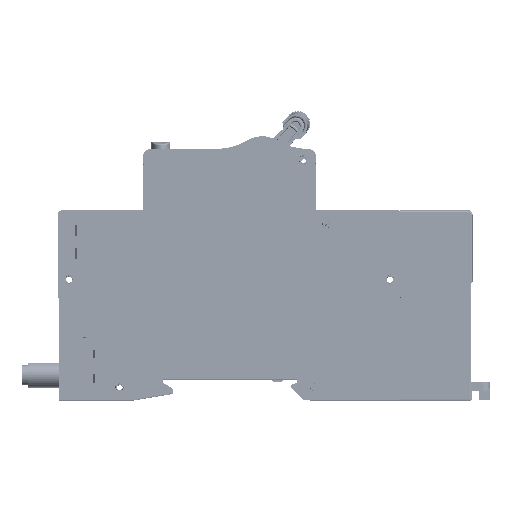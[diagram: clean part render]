
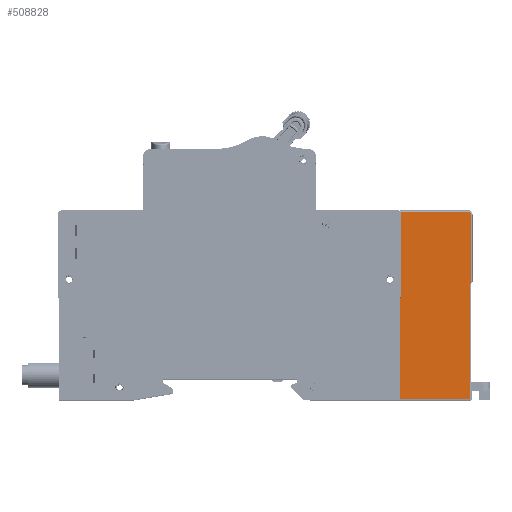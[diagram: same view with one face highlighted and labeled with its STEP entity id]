
A CAD part, top view. The second image highlights one B-rep face of the part: STEP entity #508828.
In plain terms, the highlighted planar face has unit normal (0, 0, 1).
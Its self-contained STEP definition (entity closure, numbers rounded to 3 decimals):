
#1317 = AXIS2_PLACEMENT_3D ( 'NONE', #620184, #546861, #752380 ) ;
#4178 = CARTESIAN_POINT ( 'NONE',  ( 40.462, 7.587, 124.564 ) ) ;
#37185 = LINE ( 'NONE', #771597, #604093 ) ;
#49898 = DIRECTION ( 'NONE',  ( 0., 0., 1. ) ) ;
#51665 = VERTEX_POINT ( 'NONE', #101954 ) ;
#64713 = EDGE_LOOP ( 'NONE', ( #756980, #188811, #461201, #371008, #613943, #569869, #500556, #547587, #799919, #789967, #152471 ) ) ;
#75315 = VECTOR ( 'NONE', #437654, 1000. ) ;
#91107 = DIRECTION ( 'NONE',  ( 0., -1., 0. ) ) ;
#101954 = CARTESIAN_POINT ( 'NONE',  ( 40.205, 8.237, 124.564 ) ) ;
#106493 = AXIS2_PLACEMENT_3D ( 'NONE', #156075, #625683, #628583 ) ;
#108448 = CARTESIAN_POINT ( 'NONE',  ( 58.262, -40.763, 124.564 ) ) ;
#118307 = CIRCLE ( 'NONE', #398632, 0.7 ) ;
#120967 = VERTEX_POINT ( 'NONE', #679376 ) ;
#139842 = EDGE_CURVE ( 'NONE', #479136, #463063, #219833, .T. ) ;
#152471 = ORIENTED_EDGE ( 'NONE', *, *, #728249, .T. ) ;
#156075 = CARTESIAN_POINT ( 'NONE',  ( 39.512, 7.587, 124.564 ) ) ;
#163344 = EDGE_CURVE ( 'NONE', #628316, #194418, #37185, .T. ) ;
#182118 = CARTESIAN_POINT ( 'NONE',  ( 57.962, 7.537, 124.564 ) ) ;
#188811 = ORIENTED_EDGE ( 'NONE', *, *, #706231, .T. ) ;
#194418 = VERTEX_POINT ( 'NONE', #740796 ) ;
#204630 = EDGE_CURVE ( 'NONE', #843463, #120967, #319469, .T. ) ;
#219833 = LINE ( 'NONE', #605093, #588006 ) ;
#229532 = CARTESIAN_POINT ( 'NONE',  ( 58.262, -40.463, 124.564 ) ) ;
#233977 = CARTESIAN_POINT ( 'NONE',  ( 58.662, -10.163, 124.564 ) ) ;
#255140 = DIRECTION ( 'NONE',  ( -0.708, -0.706, 0. ) ) ;
#267931 = CARTESIAN_POINT ( 'NONE',  ( 58.962, 8.237, 124.564 ) ) ;
#305056 = DIRECTION ( 'NONE',  ( 0., 1., 0. ) ) ;
#306005 = FACE_OUTER_BOUND ( 'NONE', #64713, .T. ) ;
#316229 = CARTESIAN_POINT ( 'NONE',  ( 58.662, 7.537, 124.564 ) ) ;
#319469 = LINE ( 'NONE', #493028, #413600 ) ;
#322869 = EDGE_CURVE ( 'NONE', #571688, #51665, #527105, .T. ) ;
#331443 = CARTESIAN_POINT ( 'NONE',  ( 40.462, -13.741, 124.564 ) ) ;
#332248 = DIRECTION ( 'NONE',  ( 0., 1., 0. ) ) ;
#337361 = LINE ( 'NONE', #772512, #75315 ) ;
#371008 = ORIENTED_EDGE ( 'NONE', *, *, #649073, .T. ) ;
#374954 = VECTOR ( 'NONE', #255140, 1000. ) ;
#379451 = VERTEX_POINT ( 'NONE', #869956 ) ;
#398632 = AXIS2_PLACEMENT_3D ( 'NONE', #182118, #49898, #645967 ) ;
#413600 = VECTOR ( 'NONE', #91107, 1000. ) ;
#417787 = LINE ( 'NONE', #108448, #554248 ) ;
#437654 = DIRECTION ( 'NONE',  ( 0., -1., 0. ) ) ;
#450482 = CARTESIAN_POINT ( 'NONE',  ( 58.962, -40.463, 124.564 ) ) ;
#452527 = LINE ( 'NONE', #450482, #756808 ) ;
#461201 = ORIENTED_EDGE ( 'NONE', *, *, #163344, .F. ) ;
#463063 = VERTEX_POINT ( 'NONE', #728423 ) ;
#479136 = VERTEX_POINT ( 'NONE', #229532 ) ;
#493028 = CARTESIAN_POINT ( 'NONE',  ( 40.112, -14.09, 124.564 ) ) ;
#500556 = ORIENTED_EDGE ( 'NONE', *, *, #322869, .F. ) ;
#508828 = ADVANCED_FACE ( 'NONE', ( #306005 ), #681958, .F. ) ;
#527105 = CIRCLE ( 'NONE', #106493, 0.95 ) ;
#530944 = VECTOR ( 'NONE', #737727, 1000. ) ;
#545367 = DIRECTION ( 'NONE',  ( -0.708, -0.706, 0. ) ) ;
#546861 = DIRECTION ( 'NONE',  ( 0., 0., -1. ) ) ;
#547587 = ORIENTED_EDGE ( 'NONE', *, *, #842308, .T. ) ;
#554248 = VECTOR ( 'NONE', #305056, 1000. ) ;
#557099 = LINE ( 'NONE', #316229, #703876 ) ;
#559179 = CARTESIAN_POINT ( 'NONE',  ( 58.662, 7.537, 124.564 ) ) ;
#569869 = ORIENTED_EDGE ( 'NONE', *, *, #754559, .T. ) ;
#571688 = VERTEX_POINT ( 'NONE', #4178 ) ;
#583424 = DIRECTION ( 'NONE',  ( 0., 1., 0. ) ) ;
#588006 = VECTOR ( 'NONE', #332248, 1000. ) ;
#604093 = VECTOR ( 'NONE', #545367, 1000. ) ;
#605093 = CARTESIAN_POINT ( 'NONE',  ( 58.262, -40.763, 124.564 ) ) ;
#613943 = ORIENTED_EDGE ( 'NONE', *, *, #672762, .T. ) ;
#620184 = CARTESIAN_POINT ( 'NONE',  ( 58.962, -40.763, 124.564 ) ) ;
#625683 = DIRECTION ( 'NONE',  ( 0., 0., 1. ) ) ;
#628316 = VERTEX_POINT ( 'NONE', #233977 ) ;
#628583 = DIRECTION ( 'NONE',  ( -1., 0., 0. ) ) ;
#644482 = DIRECTION ( 'NONE',  ( 1., 0., 0. ) ) ;
#645967 = DIRECTION ( 'NONE',  ( -1., 0., 0. ) ) ;
#648285 = VERTEX_POINT ( 'NONE', #649782 ) ;
#649073 = EDGE_CURVE ( 'NONE', #628316, #724907, #557099, .T. ) ;
#649782 = CARTESIAN_POINT ( 'NONE',  ( 40.462, -13.741, 124.564 ) ) ;
#672762 = EDGE_CURVE ( 'NONE', #724907, #379451, #118307, .T. ) ;
#679376 = CARTESIAN_POINT ( 'NONE',  ( 40.112, -40.463, 124.564 ) ) ;
#681958 = PLANE ( 'NONE',  #1317 ) ;
#703876 = VECTOR ( 'NONE', #583424, 1000. ) ;
#706231 = EDGE_CURVE ( 'NONE', #463063, #194418, #417787, .T. ) ;
#717799 = CARTESIAN_POINT ( 'NONE',  ( 40.112, -14.09, 124.564 ) ) ;
#724907 = VERTEX_POINT ( 'NONE', #559179 ) ;
#728249 = EDGE_CURVE ( 'NONE', #120967, #479136, #452527, .T. ) ;
#728423 = CARTESIAN_POINT ( 'NONE',  ( 58.262, -13.939, 124.564 ) ) ;
#737253 = EDGE_CURVE ( 'NONE', #648285, #843463, #826718, .T. ) ;
#737727 = DIRECTION ( 'NONE',  ( -1., 0., 0. ) ) ;
#740796 = CARTESIAN_POINT ( 'NONE',  ( 58.262, -10.562, 124.564 ) ) ;
#752380 = DIRECTION ( 'NONE',  ( -1., 0., 0. ) ) ;
#754559 = EDGE_CURVE ( 'NONE', #379451, #51665, #856340, .T. ) ;
#756808 = VECTOR ( 'NONE', #644482, 1000. ) ;
#756980 = ORIENTED_EDGE ( 'NONE', *, *, #139842, .T. ) ;
#771597 = CARTESIAN_POINT ( 'NONE',  ( 58.562, -10.263, 124.564 ) ) ;
#772512 = CARTESIAN_POINT ( 'NONE',  ( 40.462, -40.763, 124.564 ) ) ;
#789967 = ORIENTED_EDGE ( 'NONE', *, *, #204630, .T. ) ;
#799919 = ORIENTED_EDGE ( 'NONE', *, *, #737253, .T. ) ;
#826718 = LINE ( 'NONE', #331443, #374954 ) ;
#842308 = EDGE_CURVE ( 'NONE', #571688, #648285, #337361, .T. ) ;
#843463 = VERTEX_POINT ( 'NONE', #717799 ) ;
#856340 = LINE ( 'NONE', #267931, #530944 ) ;
#869956 = CARTESIAN_POINT ( 'NONE',  ( 57.962, 8.237, 124.564 ) ) ;
